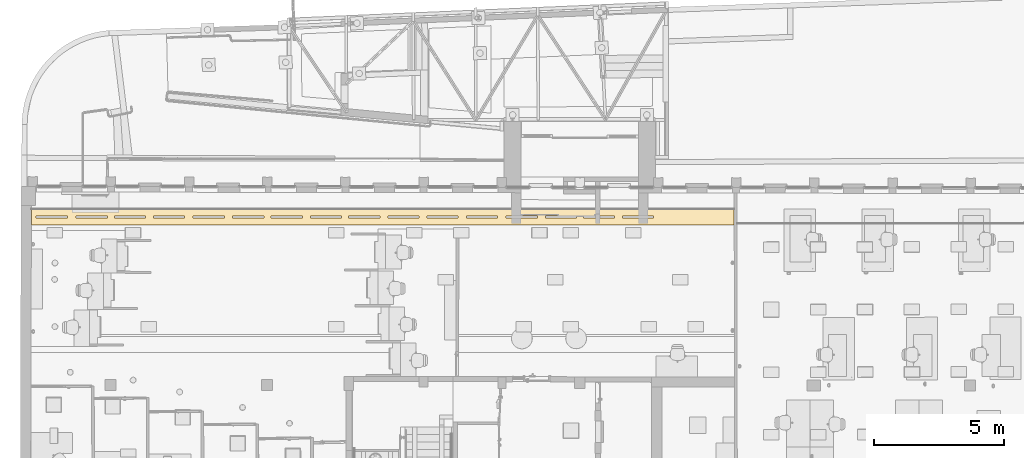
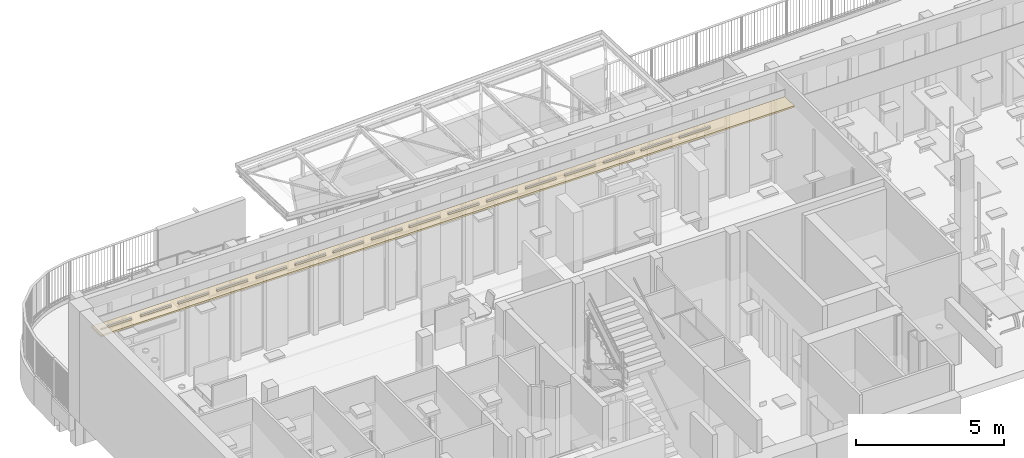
# One storey, part 62 of 128: 1 covering.
"""IFC2X3 building model written with IfcOpenShell, lengths in metres."""

from ifc_helpers import new_model, entity, si_unit, converted_unit, derived_unit, direction, frame, origin, place, context, subcontext, project, spatial, faceted_brep, material, layer, layer_set, layer_usage, type_object, element, save


model = new_model("IFC2X3")

# Units and contexts
model_context = context("Model", 3, precision=1e-05, world=origin(), true_north=direction((6.123031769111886e-17, 1.0)))
body_context = subcontext(model_context, "Body", "Model", "MODEL_VIEW")
ifc_project = project(units=[si_unit("LENGTHUNIT", "METRE"), si_unit("AREAUNIT", "SQUARE_METRE"), converted_unit("PLANEANGLEUNIT", "DEGREE", entity("IfcPlaneAngleMeasure", 0.017453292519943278), si_unit("PLANEANGLEUNIT", "RADIAN"), dimensions=[0, 0, 0, 0, 0, 0, 0]), derived_unit("THERMALTRANSMITTANCEUNIT", [(si_unit("MASSUNIT", "GRAM", prefix="KILO"), 1), (si_unit("THERMODYNAMICTEMPERATUREUNIT", "KELVIN"), -1), (si_unit("TIMEUNIT", "SECOND"), -3)])], contexts=[model_context])

# Site, building, storey
site_placement = place(None, origin())
site = spatial("IfcSite", under=ifc_project, at=site_placement, Name="Default", CompositionType="ELEMENT")
building_placement = place(site_placement, origin())
building = spatial("IfcBuilding", under=site, at=building_placement, CompositionType="ELEMENT")
storey_placement = place(building_placement, origin())
storey = spatial("IfcBuildingStorey", under=building, at=storey_placement, Name="00_RDC CAF", CompositionType="ELEMENT", Elevation=2.4982504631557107e-13)

# Covering
ifc_material = material(Name="ARC - FP - Blanc")
ifc_layer = layer(ifc_material, 0.07)
ifc_layer_set = layer_set([ifc_layer], Name="Plafond composé:FP_70mm")
ifc_layer_usage = layer_usage(ifc_layer_set, "AXIS3", "NEGATIVE", 0.07)
covering_type = type_object("IfcCoveringType", Name="Plafond composé:FP_70mm", PredefinedType="CEILING")
covering_placement = place(storey_placement, frame((6.697299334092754, 142.69021605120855, 3.849999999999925)))
element("IfcCovering", 1, at=covering_placement, inside=storey, type_object=covering_type, material=ifc_layer_usage, Name="Plafond composé:FP_70mm", ObjectType="Plafond composé:FP_70mm", PredefinedType="CEILING", context=body_context, shape_type="Brep", body=[
    faceted_brep([(26.97630337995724, 0.6323168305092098, 0.07000000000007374), (0.0018328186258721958, 0.6323168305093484, 0.07000000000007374), (0.001774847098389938, 0.6123168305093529, 0.07000000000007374), (0.0, 0.0, 0.07000000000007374), (26.97673290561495, 0.0, 0.07000000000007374), (26.976316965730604, 0.6123168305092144, 0.07000000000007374), (1.3799338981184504, 0.27826695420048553, 0.07000000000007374), (0.1799338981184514, 0.27826695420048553, 0.07000000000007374), (0.1799338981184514, 0.3482669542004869, 0.07000000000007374), (1.3799338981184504, 0.3482669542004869, 0.07000000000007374), (2.9179338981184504, 0.27826695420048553, 0.07000000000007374), (1.7179338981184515, 0.27826695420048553, 0.07000000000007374), (1.7179338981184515, 0.3482669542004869, 0.07000000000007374), (2.9179338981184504, 0.3482669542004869, 0.07000000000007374), (4.386797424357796, 0.27826695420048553, 0.07000000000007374), (3.1867974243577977, 0.27826695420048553, 0.07000000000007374), (3.1867974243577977, 0.3482669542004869, 0.07000000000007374), (4.386797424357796, 0.3482669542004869, 0.07000000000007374), (5.88293389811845, 0.27826695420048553, 0.07000000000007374), (4.682933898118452, 0.27826695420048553, 0.07000000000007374), (4.682933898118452, 0.3482669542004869, 0.07000000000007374), (5.88293389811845, 0.3482669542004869, 0.07000000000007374), (7.410933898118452, 0.27826695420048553, 0.07000000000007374), (6.210933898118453, 0.27826695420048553, 0.07000000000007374), (6.210933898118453, 0.3482669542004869, 0.07000000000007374), (7.410933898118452, 0.3482669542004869, 0.07000000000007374), (8.928933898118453, 0.27826695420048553, 0.07000000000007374), (7.728933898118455, 0.27826695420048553, 0.07000000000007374), (7.728933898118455, 0.3482669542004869, 0.07000000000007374), (8.928933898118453, 0.3482669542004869, 0.07000000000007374), (10.405933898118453, 0.27826695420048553, 0.07000000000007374), (9.205933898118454, 0.27826695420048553, 0.07000000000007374), (9.205933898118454, 0.3482669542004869, 0.07000000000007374), (10.405933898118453, 0.3482669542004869, 0.07000000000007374), (11.905933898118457, 0.27826695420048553, 0.07000000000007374), (10.705933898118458, 0.27826695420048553, 0.07000000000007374), (10.705933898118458, 0.3482669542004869, 0.07000000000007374), (11.905933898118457, 0.3482669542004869, 0.07000000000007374), (13.374933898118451, 0.27826695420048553, 0.07000000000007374), (12.174933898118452, 0.27826695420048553, 0.07000000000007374), (12.174933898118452, 0.3482669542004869, 0.07000000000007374), (13.374933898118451, 0.3482669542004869, 0.07000000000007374), (14.884933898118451, 0.27826695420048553, 0.07000000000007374), (13.68493389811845, 0.27826695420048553, 0.07000000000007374), (13.68493389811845, 0.3482669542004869, 0.07000000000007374), (14.884933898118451, 0.3482669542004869, 0.07000000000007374), (16.380933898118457, 0.27826695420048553, 0.07000000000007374), (15.180933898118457, 0.27826695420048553, 0.07000000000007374), (15.180933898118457, 0.3482669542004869, 0.07000000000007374), (16.380933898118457, 0.3482669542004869, 0.07000000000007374), (17.893933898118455, 0.27826695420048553, 0.07000000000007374), (16.693933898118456, 0.27826695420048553, 0.07000000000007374), (16.693933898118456, 0.3482669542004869, 0.07000000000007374), (17.893933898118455, 0.3482669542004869, 0.07000000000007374), (19.417933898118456, 0.27826695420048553, 0.07000000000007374), (18.217933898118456, 0.27826695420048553, 0.07000000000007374), (18.217933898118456, 0.3482669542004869, 0.07000000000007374), (19.417933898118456, 0.3482669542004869, 0.07000000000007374), (23.88093389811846, 0.27826695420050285, 0.07000000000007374), (22.680933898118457, 0.27826695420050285, 0.07000000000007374), (22.680933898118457, 0.34826695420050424, 0.07000000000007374), (23.88093389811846, 0.34826695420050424, 0.07000000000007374), (22.3868497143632, 0.27826695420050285, 0.07000000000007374), (21.186849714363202, 0.27826695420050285, 0.07000000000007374), (21.186849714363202, 0.34826695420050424, 0.07000000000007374), (22.3868497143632, 0.34826695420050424, 0.07000000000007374), (20.9298497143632, 0.27826695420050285, 0.07000000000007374), (19.7298497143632, 0.27826695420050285, 0.07000000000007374), (19.7298497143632, 0.34826695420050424, 0.07000000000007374), (20.9298497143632, 0.34826695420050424, 0.07000000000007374), (0.0018328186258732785, 0.6323168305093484, 0.0), (26.97630337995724, 0.6323168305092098, 0.0), (26.97673290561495, 0.0, 0.0), (0.0, 0.0, 0.0), (0.18093389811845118, 0.3017669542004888, 0.0), (1.3789338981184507, 0.3017669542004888, 0.0), (1.3789338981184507, 0.3247669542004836, 0.0), (0.18093389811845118, 0.32476695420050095, 0.0), (1.7189338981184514, 0.3017669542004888, 0.0), (2.916933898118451, 0.3017669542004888, 0.0), (2.916933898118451, 0.3247669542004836, 0.0), (1.7189338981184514, 0.32476695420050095, 0.0), (3.1877974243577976, 0.3017669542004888, 0.0), (4.385797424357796, 0.3017669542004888, 0.0), (4.385797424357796, 0.3247669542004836, 0.0), (3.1877974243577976, 0.32476695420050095, 0.0), (4.683933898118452, 0.3017669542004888, 0.0), (5.88193389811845, 0.3017669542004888, 0.0), (5.881933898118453, 0.3247669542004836, 0.0), (4.683933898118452, 0.32476695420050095, 0.0), (6.2119338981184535, 0.3017669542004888, 0.0), (7.409933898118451, 0.3017669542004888, 0.0), (7.409933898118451, 0.3247669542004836, 0.0), (6.2119338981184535, 0.32476695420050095, 0.0), (7.729933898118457, 0.3017669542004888, 0.0), (8.927933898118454, 0.3017669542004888, 0.0), (8.927933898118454, 0.3247669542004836, 0.0), (7.729933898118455, 0.32476695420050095, 0.0), (9.206933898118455, 0.3017669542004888, 0.0), (10.404933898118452, 0.3017669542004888, 0.0), (10.404933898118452, 0.3247669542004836, 0.0), (9.206933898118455, 0.32476695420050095, 0.0), (10.706933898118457, 0.3017669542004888, 0.0), (11.904933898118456, 0.3017669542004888, 0.0), (11.90493389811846, 0.3247669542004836, 0.0), (10.706933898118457, 0.32476695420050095, 0.0), (12.175933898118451, 0.3017669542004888, 0.0), (13.373933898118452, 0.3017669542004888, 0.0), (13.373933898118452, 0.3247669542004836, 0.0), (12.175933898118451, 0.32476695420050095, 0.0), (13.68593389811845, 0.3017669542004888, 0.0), (14.88393389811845, 0.3017669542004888, 0.0), (14.883933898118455, 0.3247669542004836, 0.0), (13.68593389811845, 0.32476695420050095, 0.0), (15.18193389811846, 0.3017669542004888, 0.0), (16.379933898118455, 0.3017669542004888, 0.0), (16.379933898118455, 0.3247669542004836, 0.0), (15.181933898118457, 0.32476695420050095, 0.0), (16.694933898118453, 0.3017669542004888, 0.0), (17.892933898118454, 0.3017669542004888, 0.0), (17.892933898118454, 0.3247669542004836, 0.0), (16.694933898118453, 0.32476695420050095, 0.0), (18.218933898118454, 0.3017669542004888, 0.0), (19.416933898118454, 0.3017669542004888, 0.0), (19.416933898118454, 0.3247669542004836, 0.0), (18.218933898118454, 0.32476695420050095, 0.0), (22.68193389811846, 0.30176695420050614, 0.0), (23.87993389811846, 0.30176695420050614, 0.0), (23.879933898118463, 0.32476695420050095, 0.0), (22.68193389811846, 0.32476695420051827, 0.0), (21.187849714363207, 0.30176695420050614, 0.0), (22.385849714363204, 0.30176695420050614, 0.0), (22.385849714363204, 0.32476695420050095, 0.0), (21.187849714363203, 0.32476695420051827, 0.0), (19.730849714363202, 0.30176695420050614, 0.0), (20.9288497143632, 0.30176695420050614, 0.0), (20.9288497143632, 0.32476695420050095, 0.0), (19.7308497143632, 0.32476695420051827, 0.0), (0.0, 0.0, 0.060000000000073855), (26.97673290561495, 0.0, 0.060000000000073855), (0.18093389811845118, 0.3017669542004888, 0.05000000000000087), (1.3789338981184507, 0.3017669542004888, 0.05000000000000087), (0.18093389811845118, 0.3247669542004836, 0.05000000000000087), (1.3789338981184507, 0.3247669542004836, 0.05000000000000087), (1.3799338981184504, 0.27826695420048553, 0.05000000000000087), (1.3799338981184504, 0.3482669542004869, 0.05000000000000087), (0.1799338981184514, 0.3482669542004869, 0.05000000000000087), (0.1799338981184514, 0.27826695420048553, 0.05000000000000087), (1.7189338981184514, 0.3017669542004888, 0.05000000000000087), (2.916933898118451, 0.3017669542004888, 0.05000000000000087), (1.7189338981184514, 0.3247669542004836, 0.05000000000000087), (2.916933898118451, 0.3247669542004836, 0.05000000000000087), (2.9179338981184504, 0.27826695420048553, 0.05000000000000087), (2.9179338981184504, 0.3482669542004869, 0.05000000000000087), (1.7179338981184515, 0.3482669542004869, 0.05000000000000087), (1.7179338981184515, 0.27826695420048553, 0.05000000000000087), (3.1877974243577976, 0.3017669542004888, 0.05000000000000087), (4.385797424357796, 0.3017669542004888, 0.05000000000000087), (3.1877974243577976, 0.3247669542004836, 0.05000000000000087), (4.385797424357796, 0.3247669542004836, 0.05000000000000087), (4.386797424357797, 0.27826695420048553, 0.05000000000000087), (4.386797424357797, 0.3482669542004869, 0.05000000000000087), (3.1867974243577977, 0.3482669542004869, 0.05000000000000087), (3.1867974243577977, 0.27826695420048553, 0.05000000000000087), (4.683933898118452, 0.3017669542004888, 0.05000000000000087), (5.88193389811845, 0.3017669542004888, 0.05000000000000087), (4.683933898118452, 0.3247669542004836, 0.05000000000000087), (5.88193389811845, 0.3247669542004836, 0.05000000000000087), (5.882933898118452, 0.27826695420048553, 0.05000000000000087), (5.882933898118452, 0.3482669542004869, 0.05000000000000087), (4.682933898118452, 0.3482669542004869, 0.05000000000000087), (4.682933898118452, 0.27826695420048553, 0.05000000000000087), (6.2119338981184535, 0.3017669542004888, 0.05000000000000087), (7.409933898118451, 0.3017669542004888, 0.05000000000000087), (6.2119338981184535, 0.3247669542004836, 0.05000000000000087), (7.409933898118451, 0.3247669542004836, 0.05000000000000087), (7.410933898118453, 0.27826695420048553, 0.05000000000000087), (7.410933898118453, 0.3482669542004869, 0.05000000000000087), (6.210933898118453, 0.3482669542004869, 0.05000000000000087), (6.210933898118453, 0.27826695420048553, 0.05000000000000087), (7.729933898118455, 0.3017669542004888, 0.05000000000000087), (8.927933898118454, 0.3017669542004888, 0.05000000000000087), (7.729933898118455, 0.3247669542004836, 0.05000000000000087), (8.927933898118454, 0.3247669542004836, 0.05000000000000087), (8.928933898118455, 0.27826695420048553, 0.05000000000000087), (8.928933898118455, 0.3482669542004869, 0.05000000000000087), (7.728933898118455, 0.3482669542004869, 0.05000000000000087), (7.728933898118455, 0.27826695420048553, 0.05000000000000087), (9.206933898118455, 0.3017669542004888, 0.05000000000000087), (10.404933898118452, 0.3017669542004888, 0.05000000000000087), (9.206933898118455, 0.3247669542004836, 0.05000000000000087), (10.404933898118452, 0.3247669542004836, 0.05000000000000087), (10.405933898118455, 0.27826695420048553, 0.05000000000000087), (10.405933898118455, 0.3482669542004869, 0.05000000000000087), (9.205933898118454, 0.3482669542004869, 0.05000000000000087), (9.205933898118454, 0.27826695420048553, 0.05000000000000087), (10.706933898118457, 0.3017669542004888, 0.05000000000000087), (11.904933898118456, 0.3017669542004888, 0.05000000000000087), (10.706933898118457, 0.3247669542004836, 0.05000000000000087), (11.904933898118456, 0.3247669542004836, 0.05000000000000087), (11.905933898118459, 0.27826695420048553, 0.05000000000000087), (11.905933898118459, 0.3482669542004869, 0.05000000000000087), (10.705933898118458, 0.3482669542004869, 0.05000000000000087), (10.705933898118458, 0.27826695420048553, 0.05000000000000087), (12.175933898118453, 0.3017669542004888, 0.05000000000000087), (13.373933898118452, 0.3017669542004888, 0.05000000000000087), (12.175933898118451, 0.3247669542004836, 0.05000000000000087), (13.373933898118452, 0.3247669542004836, 0.05000000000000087), (13.374933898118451, 0.27826695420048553, 0.05000000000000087), (13.374933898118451, 0.3482669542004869, 0.05000000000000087), (12.174933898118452, 0.3482669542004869, 0.05000000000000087), (12.174933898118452, 0.27826695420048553, 0.05000000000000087), (13.68593389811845, 0.3017669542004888, 0.05000000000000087), (14.88393389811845, 0.3017669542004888, 0.05000000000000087), (13.68593389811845, 0.3247669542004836, 0.05000000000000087), (14.88393389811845, 0.3247669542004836, 0.05000000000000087), (14.884933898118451, 0.27826695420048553, 0.05000000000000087), (14.884933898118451, 0.3482669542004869, 0.05000000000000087), (13.68493389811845, 0.3482669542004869, 0.05000000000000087), (13.68493389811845, 0.27826695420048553, 0.05000000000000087), (15.181933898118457, 0.3017669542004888, 0.05000000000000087), (16.379933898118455, 0.3017669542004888, 0.05000000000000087), (15.181933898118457, 0.3247669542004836, 0.05000000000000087), (16.379933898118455, 0.3247669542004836, 0.05000000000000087), (16.380933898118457, 0.27826695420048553, 0.05000000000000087), (16.380933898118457, 0.3482669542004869, 0.05000000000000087), (15.180933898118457, 0.3482669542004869, 0.05000000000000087), (15.180933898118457, 0.27826695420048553, 0.05000000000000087), (16.694933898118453, 0.3017669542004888, 0.05000000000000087), (17.892933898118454, 0.3017669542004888, 0.05000000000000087), (16.694933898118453, 0.3247669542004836, 0.05000000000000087), (17.892933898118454, 0.3247669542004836, 0.05000000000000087), (17.893933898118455, 0.27826695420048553, 0.05000000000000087), (17.893933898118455, 0.3482669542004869, 0.05000000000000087), (16.693933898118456, 0.3482669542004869, 0.05000000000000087), (16.693933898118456, 0.27826695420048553, 0.05000000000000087), (18.218933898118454, 0.3017669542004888, 0.05000000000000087), (19.416933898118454, 0.3017669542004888, 0.05000000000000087), (18.218933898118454, 0.3247669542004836, 0.05000000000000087), (19.416933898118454, 0.3247669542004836, 0.05000000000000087), (19.417933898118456, 0.27826695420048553, 0.05000000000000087), (19.417933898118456, 0.3482669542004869, 0.05000000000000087), (18.217933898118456, 0.3482669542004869, 0.05000000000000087), (18.217933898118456, 0.27826695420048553, 0.05000000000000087), (22.68193389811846, 0.30176695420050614, 0.05000000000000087), (23.87993389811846, 0.30176695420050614, 0.05000000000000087), (22.68193389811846, 0.32476695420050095, 0.05000000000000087), (23.87993389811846, 0.32476695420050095, 0.05000000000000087), (23.88093389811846, 0.27826695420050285, 0.05000000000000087), (23.88093389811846, 0.34826695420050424, 0.05000000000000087), (22.680933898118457, 0.34826695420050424, 0.05000000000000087), (22.680933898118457, 0.27826695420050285, 0.05000000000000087), (21.187849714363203, 0.30176695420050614, 0.05000000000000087), (22.385849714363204, 0.30176695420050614, 0.05000000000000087), (21.187849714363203, 0.32476695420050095, 0.05000000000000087), (22.385849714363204, 0.32476695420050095, 0.05000000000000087), (22.3868497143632, 0.27826695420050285, 0.05000000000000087), (22.3868497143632, 0.34826695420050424, 0.05000000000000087), (21.186849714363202, 0.34826695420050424, 0.05000000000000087), (21.186849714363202, 0.27826695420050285, 0.05000000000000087), (19.7308497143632, 0.30176695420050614, 0.05000000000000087), (20.9288497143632, 0.30176695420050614, 0.05000000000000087), (19.7308497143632, 0.32476695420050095, 0.05000000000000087), (20.9288497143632, 0.32476695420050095, 0.05000000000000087), (20.9298497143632, 0.27826695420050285, 0.05000000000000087), (20.9298497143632, 0.34826695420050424, 0.05000000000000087), (19.7298497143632, 0.34826695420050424, 0.05000000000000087), (19.7298497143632, 0.27826695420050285, 0.05000000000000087)], [[[0, 1, 2, 3, 4, 5], [6, 7, 8, 9], [10, 11, 12, 13], [14, 15, 16, 17], [18, 19, 20, 21], [22, 23, 24, 25], [26, 27, 28, 29], [30, 31, 32, 33], [34, 35, 36, 37], [38, 39, 40, 41], [42, 43, 44, 45], [46, 47, 48, 49], [50, 51, 52, 53], [54, 55, 56, 57], [58, 59, 60, 61], [62, 63, 64, 65], [66, 67, 68, 69]], [[70, 71, 72, 73], [74, 75, 76, 77], [78, 79, 80, 81], [82, 83, 84, 85], [86, 87, 88, 89], [90, 91, 92, 93], [94, 95, 96, 97], [98, 99, 100, 101], [102, 103, 104, 105], [106, 107, 108, 109], [110, 111, 112, 113], [114, 115, 116, 117], [118, 119, 120, 121], [122, 123, 124, 125], [126, 127, 128, 129], [130, 131, 132, 133], [134, 135, 136, 137]], [[1, 0, 71, 70]], [[3, 2, 1, 70, 73, 138]], [[4, 3, 138, 73, 72, 139]], [[0, 5, 4, 139, 72, 71]], [[74, 140, 141, 75]], [[140, 74, 77, 142]], [[142, 77, 76, 143]], [[75, 141, 143, 76]], [[141, 140, 142, 143], [144, 145, 146, 147]], [[144, 147, 7, 6]], [[147, 146, 8, 7]], [[146, 145, 9, 8]], [[145, 144, 6, 9]], [[78, 148, 149, 79]], [[148, 78, 81, 150]], [[150, 81, 80, 151]], [[79, 149, 151, 80]], [[149, 148, 150, 151], [152, 153, 154, 155]], [[152, 155, 11, 10]], [[155, 154, 12, 11]], [[154, 153, 13, 12]], [[153, 152, 10, 13]], [[82, 156, 157, 83]], [[156, 82, 85, 158]], [[158, 85, 84, 159]], [[83, 157, 159, 84]], [[157, 156, 158, 159], [160, 161, 162, 163]], [[160, 163, 15, 14]], [[163, 162, 16, 15]], [[162, 161, 17, 16]], [[161, 160, 14, 17]], [[86, 164, 165, 87]], [[164, 86, 89, 166]], [[166, 89, 88, 167]], [[87, 165, 167, 88]], [[165, 164, 166, 167], [168, 169, 170, 171]], [[168, 171, 19, 18]], [[171, 170, 20, 19]], [[170, 169, 21, 20]], [[169, 168, 18, 21]], [[90, 172, 173, 91]], [[172, 90, 93, 174]], [[174, 93, 92, 175]], [[91, 173, 175, 92]], [[173, 172, 174, 175], [176, 177, 178, 179]], [[176, 179, 23, 22]], [[179, 178, 24, 23]], [[178, 177, 25, 24]], [[177, 176, 22, 25]], [[94, 180, 181, 95]], [[180, 94, 97, 182]], [[182, 97, 96, 183]], [[95, 181, 183, 96]], [[181, 180, 182, 183], [184, 185, 186, 187]], [[184, 187, 27, 26]], [[187, 186, 28, 27]], [[186, 185, 29, 28]], [[185, 184, 26, 29]], [[98, 188, 189, 99]], [[188, 98, 101, 190]], [[190, 101, 100, 191]], [[99, 189, 191, 100]], [[189, 188, 190, 191], [192, 193, 194, 195]], [[192, 195, 31, 30]], [[195, 194, 32, 31]], [[194, 193, 33, 32]], [[193, 192, 30, 33]], [[102, 196, 197, 103]], [[196, 102, 105, 198]], [[198, 105, 104, 199]], [[103, 197, 199, 104]], [[197, 196, 198, 199], [200, 201, 202, 203]], [[200, 203, 35, 34]], [[203, 202, 36, 35]], [[202, 201, 37, 36]], [[201, 200, 34, 37]], [[106, 204, 205, 107]], [[204, 106, 109, 206]], [[206, 109, 108, 207]], [[107, 205, 207, 108]], [[205, 204, 206, 207], [208, 209, 210, 211]], [[208, 211, 39, 38]], [[211, 210, 40, 39]], [[210, 209, 41, 40]], [[209, 208, 38, 41]], [[110, 212, 213, 111]], [[212, 110, 113, 214]], [[214, 113, 112, 215]], [[111, 213, 215, 112]], [[213, 212, 214, 215], [216, 217, 218, 219]], [[216, 219, 43, 42]], [[219, 218, 44, 43]], [[218, 217, 45, 44]], [[217, 216, 42, 45]], [[114, 220, 221, 115]], [[220, 114, 117, 222]], [[222, 117, 116, 223]], [[115, 221, 223, 116]], [[221, 220, 222, 223], [224, 225, 226, 227]], [[224, 227, 47, 46]], [[227, 226, 48, 47]], [[226, 225, 49, 48]], [[225, 224, 46, 49]], [[118, 228, 229, 119]], [[228, 118, 121, 230]], [[230, 121, 120, 231]], [[119, 229, 231, 120]], [[229, 228, 230, 231], [232, 233, 234, 235]], [[232, 235, 51, 50]], [[235, 234, 52, 51]], [[234, 233, 53, 52]], [[233, 232, 50, 53]], [[122, 236, 237, 123]], [[236, 122, 125, 238]], [[238, 125, 124, 239]], [[123, 237, 239, 124]], [[237, 236, 238, 239], [240, 241, 242, 243]], [[240, 243, 55, 54]], [[243, 242, 56, 55]], [[242, 241, 57, 56]], [[241, 240, 54, 57]], [[126, 244, 245, 127]], [[244, 126, 129, 246]], [[246, 129, 128, 247]], [[127, 245, 247, 128]], [[245, 244, 246, 247], [248, 249, 250, 251]], [[248, 251, 59, 58]], [[251, 250, 60, 59]], [[250, 249, 61, 60]], [[249, 248, 58, 61]], [[130, 252, 253, 131]], [[252, 130, 133, 254]], [[254, 133, 132, 255]], [[131, 253, 255, 132]], [[253, 252, 254, 255], [256, 257, 258, 259]], [[256, 259, 63, 62]], [[259, 258, 64, 63]], [[258, 257, 65, 64]], [[257, 256, 62, 65]], [[134, 260, 261, 135]], [[260, 134, 137, 262]], [[262, 137, 136, 263]], [[135, 261, 263, 136]], [[261, 260, 262, 263], [264, 265, 266, 267]], [[264, 267, 67, 66]], [[267, 266, 68, 67]], [[266, 265, 69, 68]], [[265, 264, 66, 69]]], outer=[[True, False, False, False, False, False, False, False, False, False, False, False, False, False, False, False, False], [True, False, False, False, False, False, False, False, False, False, False, False, False, False, False, False, False], [True], [True], [True], [True], [True], [True], [True], [True], [False, True], [True], [True], [True], [True], [True], [True], [True], [True], [False, True], [True], [True], [True], [True], [True], [True], [True], [True], [False, True], [True], [True], [True], [True], [True], [True], [True], [True], [False, True], [True], [True], [True], [True], [True], [True], [True], [True], [False, True], [True], [True], [True], [True], [True], [True], [True], [True], [False, True], [True], [True], [True], [True], [True], [True], [True], [True], [False, True], [True], [True], [True], [True], [True], [True], [True], [True], [False, True], [True], [True], [True], [True], [True], [True], [True], [True], [False, True], [True], [True], [True], [True], [True], [True], [True], [True], [False, True], [True], [True], [True], [True], [True], [True], [True], [True], [False, True], [True], [True], [True], [True], [True], [True], [True], [True], [False, True], [True], [True], [True], [True], [True], [True], [True], [True], [False, True], [True], [True], [True], [True], [True], [True], [True], [True], [False, True], [True], [True], [True], [True], [True], [True], [True], [True], [False, True], [True], [True], [True], [True], [True], [True], [True], [True], [False, True], [True], [True], [True], [True]]),
])

save(model, "model.ifc")
